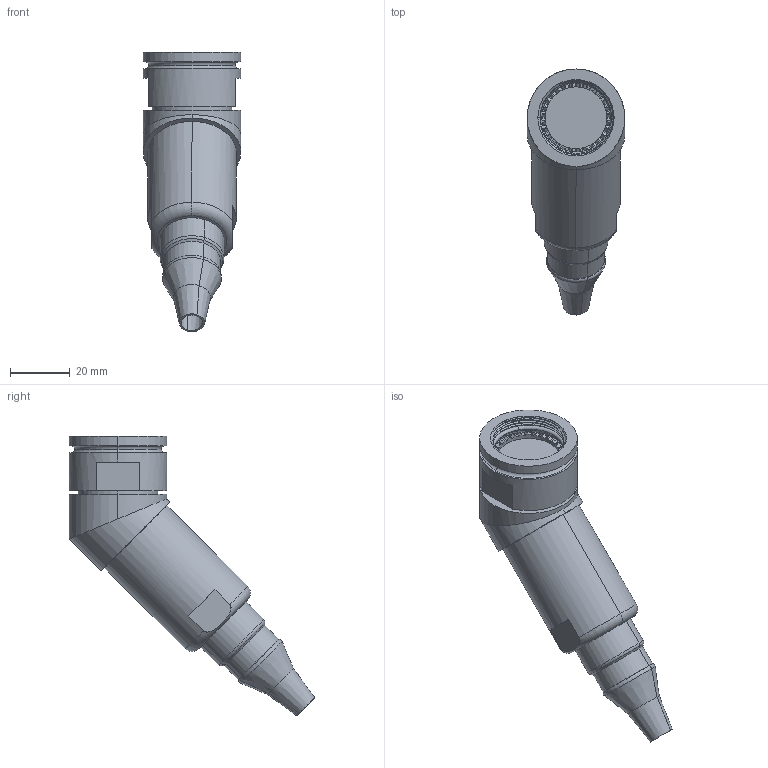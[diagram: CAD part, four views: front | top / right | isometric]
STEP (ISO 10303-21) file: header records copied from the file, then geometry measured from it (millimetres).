
FILE_DESCRIPTION (( 'STEP AP214' ), '1' );
FILE_NAME ('Q38SHELL-45X-17-XXXX-HX.STEP', '2025-09-25T19:53:24', ( '' ), ( '' ), 'SwSTEP 2.0', 'SolidWorks 2024', '' );
FILE_SCHEMA (( 'AUTOMOTIVE_DESIGN' ));
Length unit declared in the file: millimetre
Products named in the file (1): Q38SHELL-45X-17-XXXX-HX
Bounding box: 32.59 x 82.09 x 93.45 mm (x, y, z)
Volume: 60254.4 mm3; surface area: 14432.5 mm2
Topology: 2 solids, 2 shells, 212 faces, 560 edges, 363 vertices
Faces by surface type: plane 136, cylinder 39, cone 20, torus 14, bspline 3
Entity records: 7536 total; most frequent: CARTESIAN_POINT 2455, ORIENTED_EDGE 1116, DIRECTION 1072, EDGE_CURVE 558, AXIS2_PLACEMENT_3D 444, VERTEX_POINT 363, CIRCLE 234, EDGE_LOOP 227
